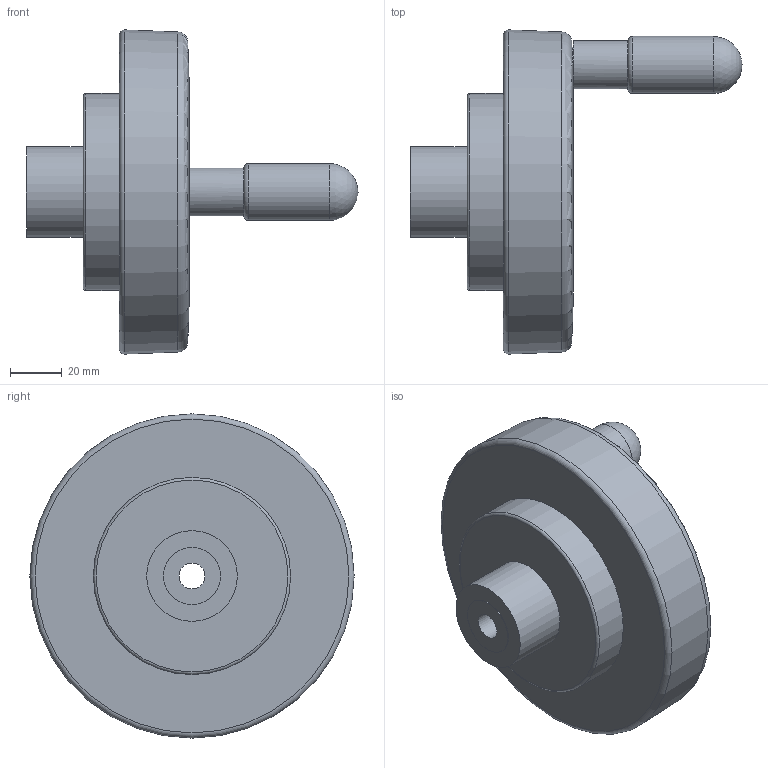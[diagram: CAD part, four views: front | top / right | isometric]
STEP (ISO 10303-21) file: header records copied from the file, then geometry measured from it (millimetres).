
FILE_DESCRIPTION( ( 'STEP AP203' ), '1' );
FILE_NAME( 'C:/Temp/Ganter_Step_05_03_2020/data/1_4/gn521_8/gn521_8_b_d/Disc handwheel GN 521.8-125-B10-D.stp', '2020-03-05T10:53:25', ( 'License CC BY-ND 4.0' ), ( 'CADENAS' ), ' ', 'PARTsolutions', ' ' );
FILE_SCHEMA( ( 'CONFIG_CONTROL_DESIGN' ) );
Length unit declared in the file: millimetre
Products named in the file (1): _Disc handwheel GN 521.8-125-B10-D
Bounding box: 128 x 125 x 125 mm (x, y, z)
Volume: 298885.6 mm3; surface area: 51808.5 mm2
Topology: 1 solids, 1 shells, 25 faces, 52 edges, 32 vertices
Faces by surface type: cylinder 9, plane 8, torus 5, cone 2, sphere 1
Full cylindrical faces by diameter (mm): 10 x1, 14 x1, 18.5 x1, 22 x2, 30 x1, 35 x1, 68.5 x1, 76 x1
Entity records: 658 total; most frequent: CARTESIAN_POINT 165, DIRECTION 104, ORIENTED_EDGE 54, AXIS2_PLACEMENT_3D 52, EDGE_LOOP 50, FACE_OUTER_BOUND 39, VERTEX_POINT 27, EDGE_CURVE 27
